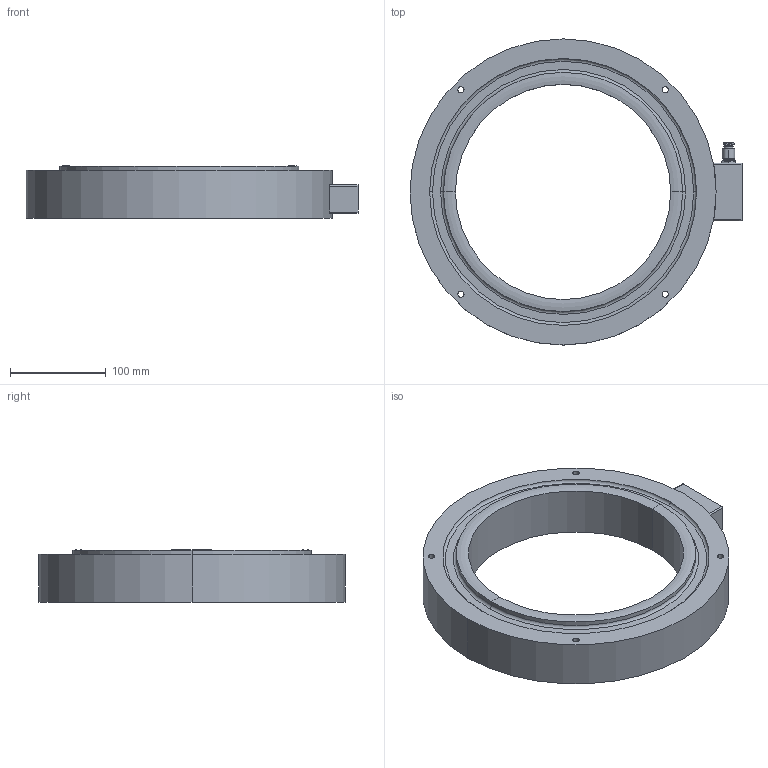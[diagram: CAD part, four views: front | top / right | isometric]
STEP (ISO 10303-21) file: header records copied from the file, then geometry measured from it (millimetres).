
FILE_DESCRIPTION((''),'1');
FILE_NAME('LRLA_180000-250000_kg.step','2018-01-10T16:18:04',(''),(''),'','','');
FILE_SCHEMA(('AUTOMOTIVE_DESIGN { 1 0 10303 214 1 1 1 1 }'));
Products named in the file (4): LRLA 180000-250000_kg; LRLA body 01; LRLA part 02; LRLA cable gland 01
Assembly tree (3 placements, depth 2):
  LRLA 180000-250000_kg
    LRLA body 01
    LRLA part 02
    LRLA cable gland 01
Bounding box: 347 x 320 x 54.93 mm (x, y, z)
Volume: 2042552.6 mm3; surface area: 190506.4 mm2
Topology: 3 solids, 3 shells, 99 faces, 216 edges, 130 vertices
Faces by surface type: cylinder 47, plane 34, torus 12, cone 6
Entity records: 3653 total; most frequent: DIRECTION 526, CARTESIAN_POINT 485, ORIENTED_EDGE 432, EDGE_CURVE 216, AXIS2_PLACEMENT_3D 211, VERTEX_POINT 130, EDGE_LOOP 116, LINE 104
